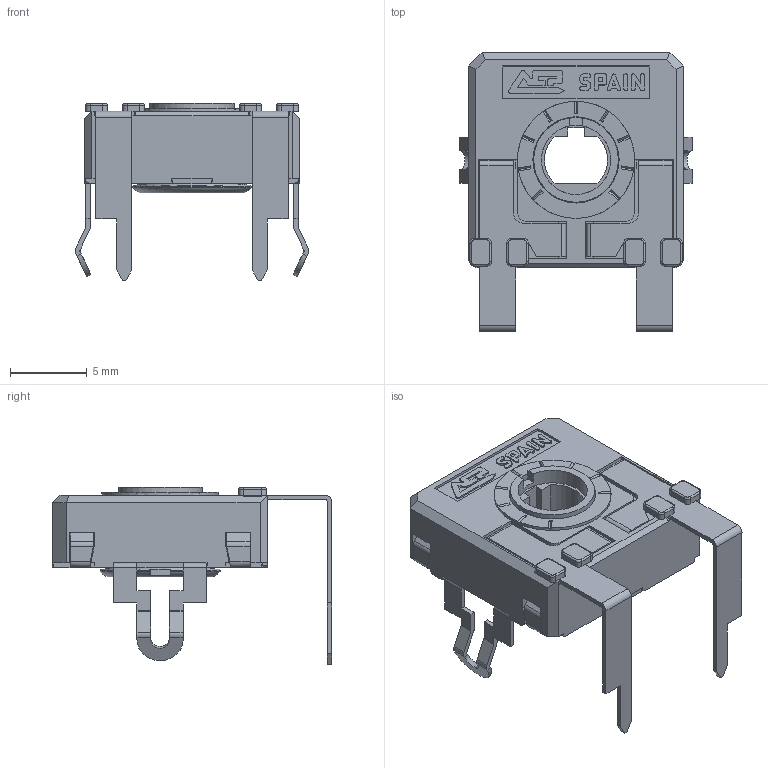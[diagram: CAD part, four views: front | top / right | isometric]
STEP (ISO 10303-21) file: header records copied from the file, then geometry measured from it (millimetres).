
FILE_DESCRIPTION(/* description */ (''),/* implementation_level */ '2;1');
FILE_NAME(/* name */ '\\SERVERACP\intercambio\Ignacio Santa Cecilia\Nueva WEB 2025\CA14 - CE14\CA14TVD11.stp',/* time_stamp */ '2025-06-13T11:24:49+02:00',/* author */ ('CEM'),/* organization */ (''),/* preprocessor_version */ 'ST-DEVELOPER v17',/* originating_system */ 'Autodesk Inventor 2018',/* authorisation */ '');
FILE_SCHEMA (('AUTOMOTIVE_DESIGN { 1 0 10303 214 3 1 1 }'));
Length unit declared in the file: millimetre
Products named in the file (1): CARCASA CA14 PGA
Bounding box: 15.16 x 18.15 x 11.5 mm (x, y, z)
Volume: 544.5 mm3; surface area: 1591.5 mm2
Topology: 1 solids, 1 shells, 726 faces, 2063 edges, 1329 vertices
Faces by surface type: plane 530, cylinder 159, torus 23, bspline 8, cone 6
Full cylindrical faces by diameter (mm): 4.5 x1, 5.5 x1, 5.6 x1, 5.752 x1, 6.8 x1, 7.6 x1
Entity records: 23849 total; most frequent: CARTESIAN_POINT 4416, ORIENTED_EDGE 4126, DIRECTION 3863, EDGE_CURVE 2063, LINE 1611, VECTOR 1611, VERTEX_POINT 1329, AXIS2_PLACEMENT_3D 1126
